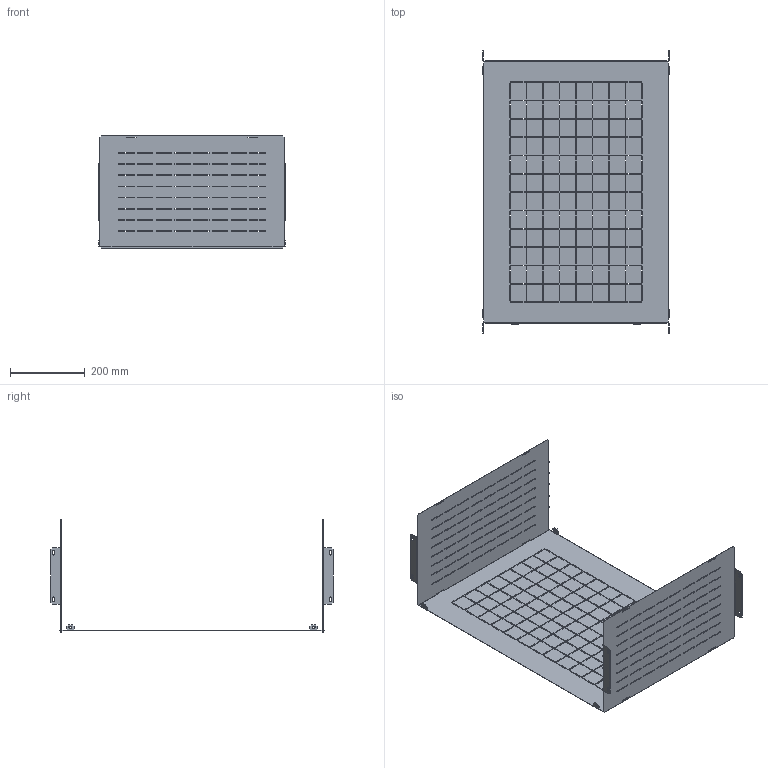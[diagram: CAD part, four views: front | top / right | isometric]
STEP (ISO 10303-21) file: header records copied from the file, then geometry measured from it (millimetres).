
FILE_DESCRIPTION (( 'STEP AP203' ), '1' );
FILE_NAME ('MA1.800.060803.01.00 Ïåðåãîðîäêè äëÿ ñáîðêè ãîðèçîíòàëüíûõ øèí Ø600 Ã800 EKF AleSta AleSta-PCHB68.STEP', '2024-12-02T13:50:48', ( '' ), ( '' ), 'SwSTEP 2.0', 'SolidWorks 2021', '' );
FILE_SCHEMA (( 'CONFIG_CONTROL_DESIGN' ));
Length unit declared in the file: millimetre
Products named in the file (3): MA1.800.060603.01.02 ôðîíòàëüíàÿ ÷àñòü_˜=600; MA1.800.060603.01.01 ãîðèçîíòàëüíàÿ ÷àñòü_ƒ=800; MA1.800.060803.01.00 Ïåðåãîðîäêè äëÿ ñáîðêè ãîðèçîíòàëüíûõ øèí Ø600 Ã800 EKF AleSta AleSta-PCHB68
Assembly tree (3 placements, depth 2):
  MA1.800.060803.01.00 Ïåðåãîðîäêè äëÿ ñáîðêè ãîðèçîíòàëüíûõ øèí Ø600 Ã800 EKF AleSta AleSta-PCHB68
    MA1.800.060603.01.01 ãîðèçîíòàëüíàÿ ÷àñòü_ƒ=800
    MA1.800.060603.01.02 ôðîíòàëüíàÿ ÷àñòü_˜=600  x2
Bounding box: 499 x 756.01 x 300 mm (x, y, z)
Volume: 629060.9 mm3; surface area: 1295351.5 mm2
Topology: 3 solids, 3 shells, 1666 faces, 4916 edges, 3256 vertices
Faces by surface type: plane 1626, cylinder 40
Entity records: 44417 total; most frequent: CARTESIAN_POINT 7762, ORIENTED_EDGE 7752, DIRECTION 6616, EDGE_CURVE 3876, VECTOR 3772, LINE 3772, VERTEX_POINT 2568, EDGE_LOOP 1912
